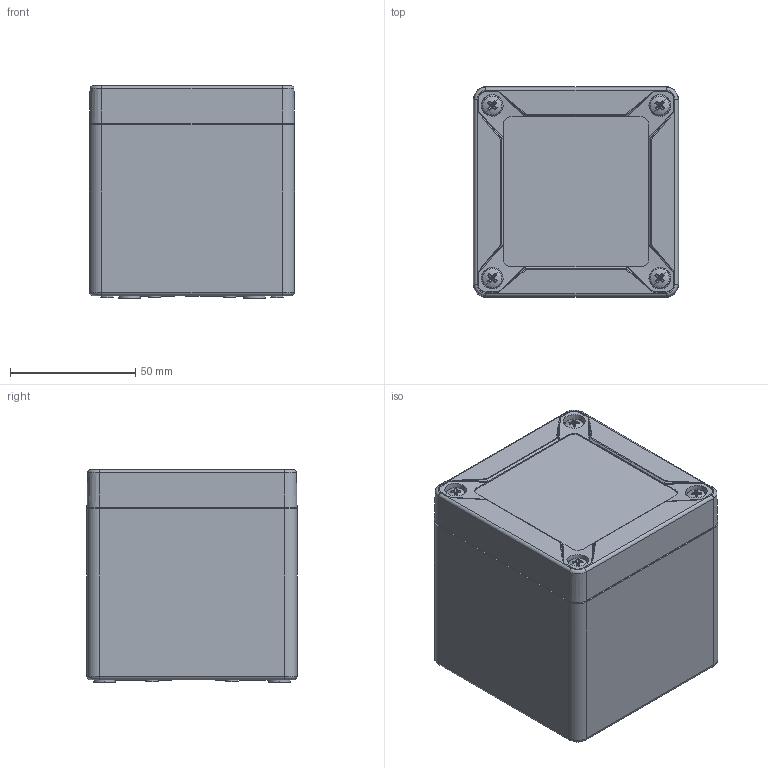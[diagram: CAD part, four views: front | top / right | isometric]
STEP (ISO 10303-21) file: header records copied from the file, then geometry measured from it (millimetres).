
FILE_DESCRIPTION (( 'STEP AP214' ), '1' );
FILE_NAME ('SG-17-02.STEP', '2026-02-27T17:29:05', ( '' ), ( '' ), 'SwSTEP 2.0', 'SolidWorks 2025', '' );
FILE_SCHEMA (( 'AUTOMOTIVE_DESIGN' ));
Length unit declared in the file: inch
Products named in the file (7): SCREWS-018_defaut; SG-17B_SG-17B-02; SG-10C_SG-10C-02; SCREWS-022_SCREWS-022; SG-98S; SG-17-02; SG-KIT-01
Assembly tree (13 placements, depth 3):
  SG-17-02
    SG-17B_SG-17B-02
    SG-10C_SG-10C-02
    SG-KIT-01
      SCREWS-018_defaut  x4
      SCREWS-022_SCREWS-022  x4
      SG-98S  x2
Bounding box: 82 x 84 x 85 mm (x, y, z)
Volume: 137425 mm3; surface area: 115995.8 mm2
Topology: 9 solids, 13 shells, 2691 faces, 6666 edges, 3959 vertices
Faces by surface type: cylinder 877, plane 780, bspline 528, torus 274, cone 130, sphere 102
Entity records: 64424 total; most frequent: CARTESIAN_POINT 26914, ORIENTED_EDGE 8116, DIRECTION 7517, EDGE_CURVE 4058, AXIS2_PLACEMENT_3D 2786, VERTEX_POINT 2520, LINE 1945, VECTOR 1945
